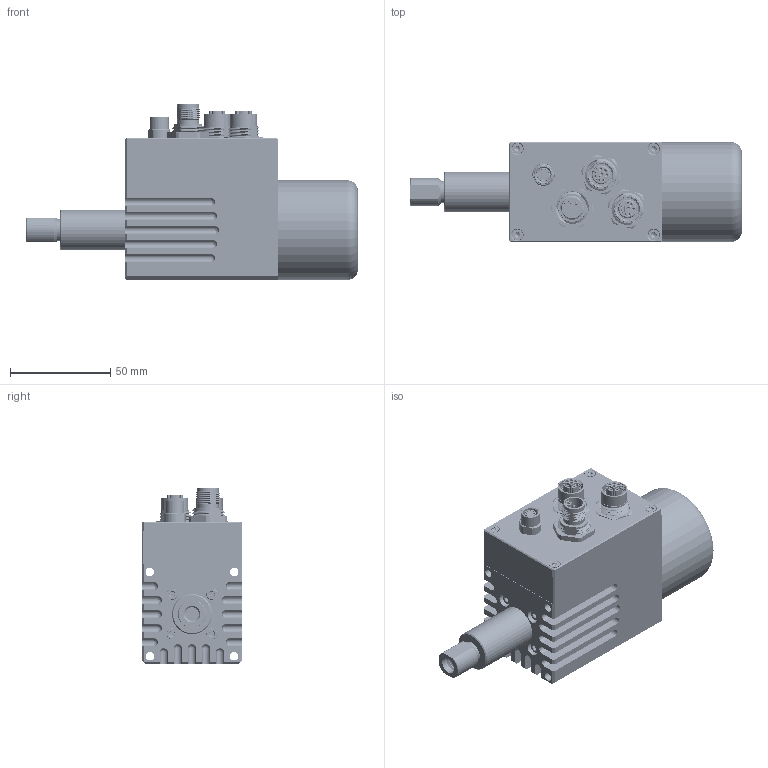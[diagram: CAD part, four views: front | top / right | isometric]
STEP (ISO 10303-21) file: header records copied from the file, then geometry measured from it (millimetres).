
FILE_DESCRIPTION(/* description */ (''),/* implementation_level */ '2;1');
FILE_NAME(/* name */ 'Envelope_LE-ICAT.A.50.XXXX.115.step',/* time_stamp */ '2025-06-06T14:57:18+02:00',/* author */ (''),/* organization */ (''),/* preprocessor_version */ 'ST-DEVELOPER v20.1',/* originating_system */ 'Autodesk Translation Framework v14.10.0.0',/* authorisation */ '');
FILE_SCHEMA (('AUTOMOTIVE_DESIGN { 1 0 10303 214 3 1 1 }'));
Products named in the file (15): 8N_115; 91290A115_Alloy Steel Socket Head Screw; 02-M-P.CO-50.40.F00; ASMBL_ICAT-Deckel; ASMBL_M12_Amissiontech_8P-Y_female_rear_AM12F0822Y002; 02-M-C.CP-50.ICAT.F00; ASMBL_M12_Amissiontech_8P-Y_female_rear_AM12F0822Y002_1; M12_Amissiontech_8P-Y_female_rear_AM12F0822Y002; ASMBL_M12_Pheonix_5P-L_1425590; M12_Pheonix_5P-L_1425590; ASMBL_M8_CUI_8P-A_female; M8_CUI_8P_female_CDM805-08A-FP-F011-67; CDM805 HOUSING; M8_PINS_FEMALE_FRONT_8P; 90236A121_Zinc-Plated Steel Torx Flat Head Screws
Assembly tree (21 placements, depth 5):
  8N_115
    91290A115_Alloy Steel Socket Head Screw  x4
    02-M-P.CO-50.40.F00
    ASMBL_ICAT-Deckel
      ASMBL_M12_Amissiontech_8P-Y_female_rear_AM12F0822Y002
        M12_Amissiontech_8P-Y_female_rear_AM12F0822Y002
      02-M-C.CP-50.ICAT.F00
      ASMBL_M12_Amissiontech_8P-Y_female_rear_AM12F0822Y002_1
        M12_Amissiontech_8P-Y_female_rear_AM12F0822Y002
      ASMBL_M12_Pheonix_5P-L_1425590
        M12_Pheonix_5P-L_1425590
      ASMBL_M8_CUI_8P-A_female
        M8_CUI_8P_female_CDM805-08A-FP-F011-67
          CDM805 HOUSING
          M8_PINS_FEMALE_FRONT_8P
    90236A121_Zinc-Plated Steel Torx Flat Head Screws  x4
Bounding box: 165.6 x 50 x 88 mm (x, y, z)
Volume: 282853.5 mm3; surface area: 86787.8 mm2
Topology: 18 solids, 28 shells, 2523 faces, 6785 edges, 4389 vertices
Faces by surface type: cylinder 900, plane 804, cone 311, bspline 304, torus 160, sphere 44
Full cylindrical faces by diameter (mm): 0.6 x16, 0.7 x8, 0.75 x8, 0.8 x16, 1 x14, 1.05 x8, 1.1 x16, 1.2 x16, 1.24 x8, 1.3 x5, 1.5 x4, 1.52 x1, 1.55 x25, 1.6 x32, 2.1 x6, 2.35 x136, 3 x136, 3.4 x8, 4.3 x4, 5.5 x4, 5.6 x1, 6 x2, 6.5 x4, 6.779 x4, 6.8 x1, 7.2 x1, 8.17 x2, 8.25 x7, 8.9 x5, 8.95 x2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
Entity records: 81070 total; most frequent: CARTESIAN_POINT 45837, ORIENTED_EDGE 7854, DIRECTION 6535, EDGE_CURVE 3927, VERTEX_POINT 2573, AXIS2_PLACEMENT_3D 2565, EDGE_LOOP 1666, FACE_OUTER_BOUND 1485
